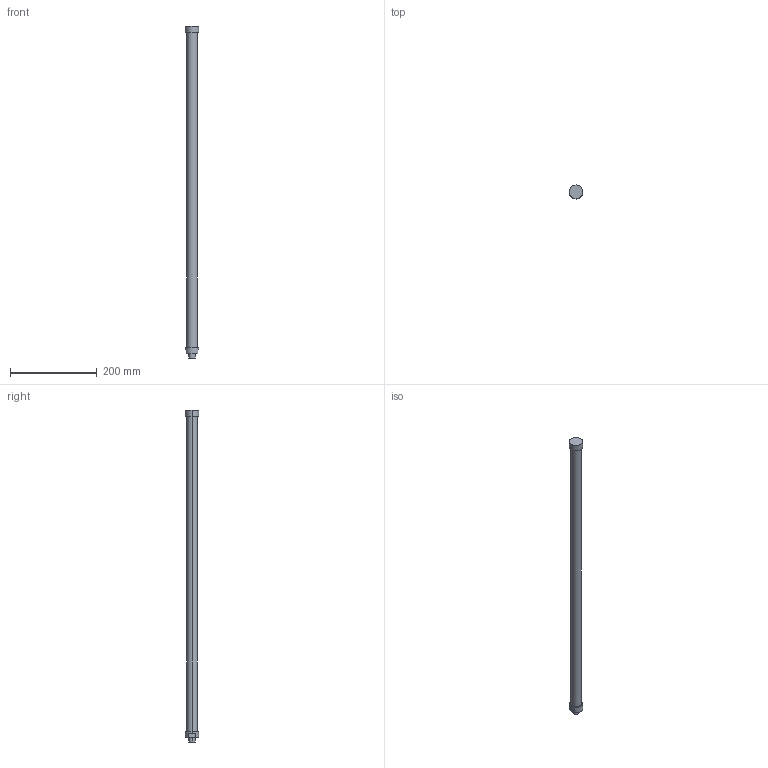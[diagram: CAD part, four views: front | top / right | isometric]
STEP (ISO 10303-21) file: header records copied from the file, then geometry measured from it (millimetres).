
FILE_DESCRIPTION(('STEP AP214'),'1');
FILE_NAME('C:/Users/Autocad/Desktop/L764-C540S1-FN.stp','2014-02-10T11:02:23',(' '),(' '),'Spatial InterOp 3D',' ',' ');
FILE_SCHEMA(('automotive_design'));
Length unit declared in the file: metre
Products named in the file (2): 1; 2
Bounding box: 31 x 31 x 764 mm (x, y, z)
Volume: 378606.8 mm3; surface area: 62829.7 mm2
Topology: 1 solids, 4 shells, 23 faces, 54 edges, 40 vertices
Faces by surface type: cylinder 12, plane 11
Entity records: 916 total; most frequent: DIRECTION 136, CARTESIAN_POINT 119, ORIENTED_EDGE 96, AXIS2_PLACEMENT_3D 57, EDGE_CURVE 54, VERTEX_POINT 40, CIRCLE 32, EDGE_LOOP 28
